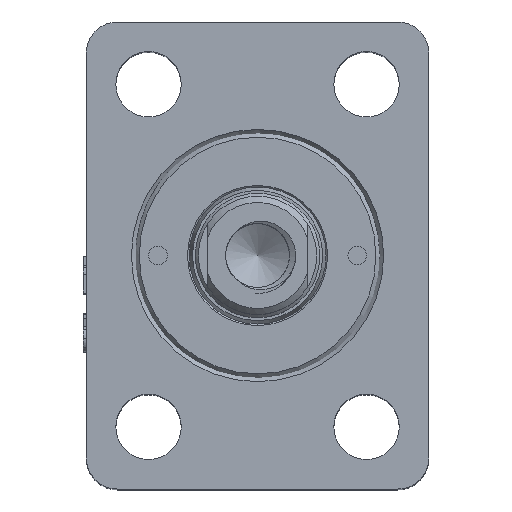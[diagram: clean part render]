
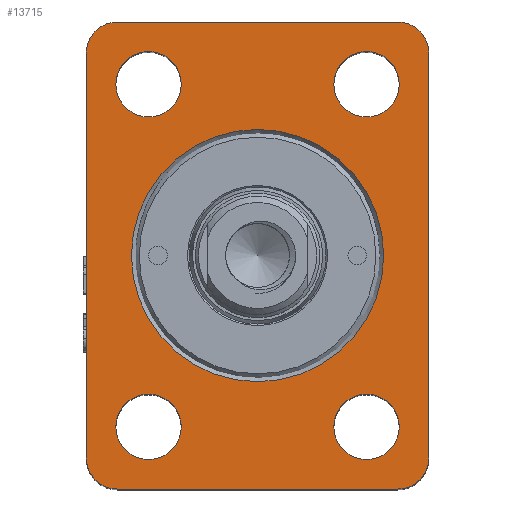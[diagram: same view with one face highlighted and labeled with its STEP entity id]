
A CAD part, top view. The second image highlights one B-rep face of the part: STEP entity #13715.
In plain terms, the highlighted planar face has unit normal (0, 0, 1).
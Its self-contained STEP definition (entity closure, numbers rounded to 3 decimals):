
#1491=FACE_BOUND('',#5172,.T.);
#1492=FACE_BOUND('',#5173,.T.);
#1493=FACE_BOUND('',#5174,.T.);
#1494=FACE_BOUND('',#5175,.T.);
#1495=FACE_BOUND('',#5176,.T.);
#1696=PLANE('',#14346);
#1883=LINE('',#29729,#2792);
#2560=LINE('',#39809,#3469);
#2561=LINE('',#39813,#3470);
#2562=LINE('',#39817,#3471);
#2792=VECTOR('',#15327,10.);
#3469=VECTOR('',#16304,10.);
#3470=VECTOR('',#16307,10.);
#3471=VECTOR('',#16312,10.);
#4351=FACE_OUTER_BOUND('',#5171,.T.);
#5171=EDGE_LOOP('',(#12603,#12604,#12605,#12606,#12607,#12608,#12609,#12610));
#5172=EDGE_LOOP('',(#12611));
#5173=EDGE_LOOP('',(#12612));
#5174=EDGE_LOOP('',(#12613));
#5175=EDGE_LOOP('',(#12614));
#5176=EDGE_LOOP('',(#12615));
#5422=CIRCLE('',#14344,20.25);
#5423=CIRCLE('',#14347,5.);
#5424=CIRCLE('',#14348,5.);
#5425=CIRCLE('',#14349,5.);
#5426=CIRCLE('',#14350,5.);
#5427=CIRCLE('',#14351,5.25);
#5428=CIRCLE('',#14352,5.25);
#5429=CIRCLE('',#14353,5.25);
#5430=CIRCLE('',#14354,5.25);
#5812=VERTEX_POINT('',#29725);
#5814=VERTEX_POINT('',#29728);
#6711=VERTEX_POINT('',#39800);
#6712=VERTEX_POINT('',#39805);
#6713=VERTEX_POINT('',#39806);
#6714=VERTEX_POINT('',#39808);
#6715=VERTEX_POINT('',#39810);
#6716=VERTEX_POINT('',#39812);
#6717=VERTEX_POINT('',#39815);
#6718=VERTEX_POINT('',#39818);
#6719=VERTEX_POINT('',#39820);
#6720=VERTEX_POINT('',#39822);
#6721=VERTEX_POINT('',#39824);
#7351=EDGE_CURVE('',#5814,#5812,#1883,.T.);
#8705=EDGE_CURVE('',#6711,#6711,#5422,.T.);
#8707=EDGE_CURVE('',#6712,#6713,#5423,.T.);
#8708=EDGE_CURVE('',#6712,#6714,#2560,.T.);
#8709=EDGE_CURVE('',#6715,#6714,#5424,.T.);
#8710=EDGE_CURVE('',#6715,#6716,#2561,.T.);
#8711=EDGE_CURVE('',#5814,#6716,#5425,.T.);
#8712=EDGE_CURVE('',#6717,#5812,#5426,.T.);
#8713=EDGE_CURVE('',#6717,#6713,#2562,.T.);
#8714=EDGE_CURVE('',#6718,#6718,#5427,.T.);
#8715=EDGE_CURVE('',#6719,#6719,#5428,.T.);
#8716=EDGE_CURVE('',#6720,#6720,#5429,.T.);
#8717=EDGE_CURVE('',#6721,#6721,#5430,.T.);
#12603=ORIENTED_EDGE('',*,*,#8707,.F.);
#12604=ORIENTED_EDGE('',*,*,#8708,.T.);
#12605=ORIENTED_EDGE('',*,*,#8709,.F.);
#12606=ORIENTED_EDGE('',*,*,#8710,.T.);
#12607=ORIENTED_EDGE('',*,*,#8711,.F.);
#12608=ORIENTED_EDGE('',*,*,#7351,.T.);
#12609=ORIENTED_EDGE('',*,*,#8712,.F.);
#12610=ORIENTED_EDGE('',*,*,#8713,.T.);
#12611=ORIENTED_EDGE('',*,*,#8714,.T.);
#12612=ORIENTED_EDGE('',*,*,#8715,.T.);
#12613=ORIENTED_EDGE('',*,*,#8716,.T.);
#12614=ORIENTED_EDGE('',*,*,#8717,.T.);
#12615=ORIENTED_EDGE('',*,*,#8705,.F.);
#13715=ADVANCED_FACE('',(#4351,#1491,#1492,#1493,#1494,#1495),#1696,.T.);
#14344=AXIS2_PLACEMENT_3D('',#39801,#16295,#16296);
#14346=AXIS2_PLACEMENT_3D('',#39804,#16300,#16301);
#14347=AXIS2_PLACEMENT_3D('',#39807,#16302,#16303);
#14348=AXIS2_PLACEMENT_3D('',#39811,#16305,#16306);
#14349=AXIS2_PLACEMENT_3D('',#39814,#16308,#16309);
#14350=AXIS2_PLACEMENT_3D('',#39816,#16310,#16311);
#14351=AXIS2_PLACEMENT_3D('',#39819,#16313,#16314);
#14352=AXIS2_PLACEMENT_3D('',#39821,#16315,#16316);
#14353=AXIS2_PLACEMENT_3D('',#39823,#16317,#16318);
#14354=AXIS2_PLACEMENT_3D('',#39825,#16319,#16320);
#15327=DIRECTION('',(0.,-1.,0.));
#16295=DIRECTION('center_axis',(0.,0.,1.));
#16296=DIRECTION('ref_axis',(-1.,0.,0.));
#16300=DIRECTION('center_axis',(0.,0.,1.));
#16301=DIRECTION('ref_axis',(1.,0.,0.));
#16302=DIRECTION('center_axis',(0.,0.,-1.));
#16303=DIRECTION('ref_axis',(0.707,-0.707,0.));
#16304=DIRECTION('',(0.,1.,0.));
#16305=DIRECTION('center_axis',(0.,0.,-1.));
#16306=DIRECTION('ref_axis',(0.707,0.707,0.));
#16307=DIRECTION('',(-1.,0.,0.));
#16308=DIRECTION('center_axis',(0.,0.,-1.));
#16309=DIRECTION('ref_axis',(-0.707,0.707,0.));
#16310=DIRECTION('center_axis',(0.,0.,-1.));
#16311=DIRECTION('ref_axis',(-0.707,-0.707,0.));
#16312=DIRECTION('',(1.,0.,0.));
#16313=DIRECTION('center_axis',(0.,0.,-1.));
#16314=DIRECTION('ref_axis',(-1.,0.,0.));
#16315=DIRECTION('center_axis',(0.,0.,-1.));
#16316=DIRECTION('ref_axis',(-1.,0.,0.));
#16317=DIRECTION('center_axis',(0.,0.,-1.));
#16318=DIRECTION('ref_axis',(-1.,0.,0.));
#16319=DIRECTION('center_axis',(0.,0.,-1.));
#16320=DIRECTION('ref_axis',(-1.,0.,0.));
#29725=CARTESIAN_POINT('',(0.,5.,85.));
#29728=CARTESIAN_POINT('',(0.,70.,85.));
#29729=CARTESIAN_POINT('',(0.,75.,85.));
#39800=CARTESIAN_POINT('',(47.75,37.5,85.));
#39801=CARTESIAN_POINT('Origin',(27.5,37.5,85.));
#39804=CARTESIAN_POINT('Origin',(27.5,37.5,85.));
#39805=CARTESIAN_POINT('',(55.,5.,85.));
#39806=CARTESIAN_POINT('',(50.,0.,85.));
#39807=CARTESIAN_POINT('Origin',(50.,5.,85.));
#39808=CARTESIAN_POINT('',(55.,70.,85.));
#39809=CARTESIAN_POINT('',(55.,0.,85.));
#39810=CARTESIAN_POINT('',(50.,75.,85.));
#39811=CARTESIAN_POINT('Origin',(50.,70.,85.));
#39812=CARTESIAN_POINT('',(5.,75.,85.));
#39813=CARTESIAN_POINT('',(55.,75.,85.));
#39814=CARTESIAN_POINT('Origin',(5.,70.,85.));
#39815=CARTESIAN_POINT('',(5.,0.,85.));
#39816=CARTESIAN_POINT('Origin',(5.,5.,85.));
#39817=CARTESIAN_POINT('',(0.,0.,85.));
#39818=CARTESIAN_POINT('',(50.25,10.,85.));
#39819=CARTESIAN_POINT('Origin',(45.,10.,85.));
#39820=CARTESIAN_POINT('',(50.25,65.,85.));
#39821=CARTESIAN_POINT('Origin',(45.,65.,85.));
#39822=CARTESIAN_POINT('',(15.25,10.,85.));
#39823=CARTESIAN_POINT('Origin',(10.,10.,85.));
#39824=CARTESIAN_POINT('',(15.25,65.,85.));
#39825=CARTESIAN_POINT('Origin',(10.,65.,85.));
